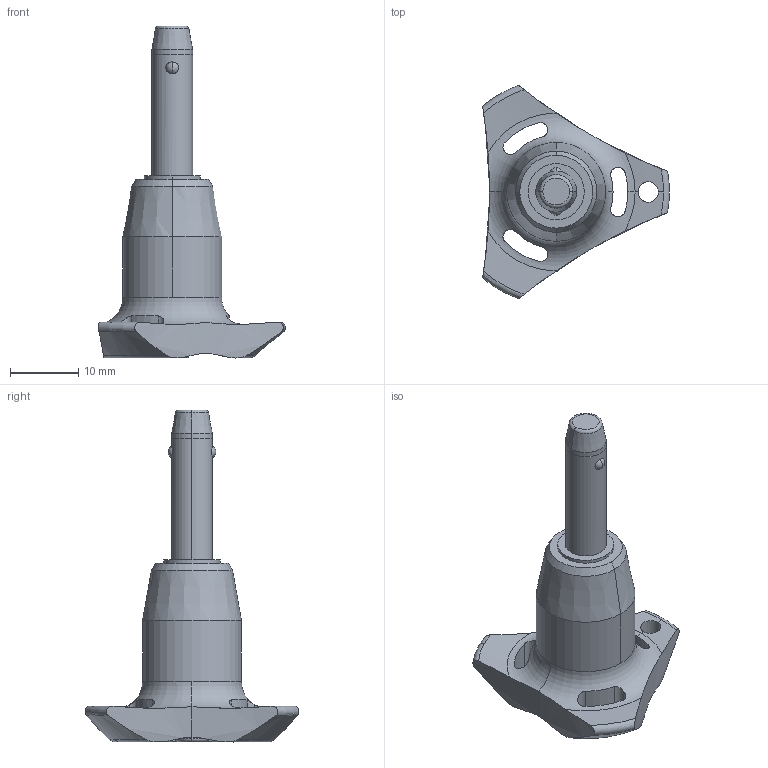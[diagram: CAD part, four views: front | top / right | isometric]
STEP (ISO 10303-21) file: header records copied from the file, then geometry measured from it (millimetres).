
FILE_DESCRIPTION (( 'STEP AP203' ), '1' );
FILE_NAME ('QR1726.M06-015-T.step', '2025-11-13T11:01:58', ( '' ), ( '' ), 'SwSTEP 2.0', 'SolidWorks 2019', '' );
FILE_SCHEMA (( 'CONFIG_CONTROL_DESIGN' ));
Length unit declared in the file: millimetre
Products named in the file (1): QR1726.M06-015-T
Bounding box: 27.4 x 31.31 x 48.7 mm (x, y, z)
Volume: 5390.1 mm3; surface area: 2835.7 mm2
Topology: 1 solids, 1 shells, 69 faces, 189 edges, 121 vertices
Faces by surface type: cylinder 32, cone 14, torus 12, sphere 6, plane 5
Entity records: 2809 total; most frequent: CARTESIAN_POINT 1014, ORIENTED_EDGE 378, DIRECTION 352, EDGE_CURVE 189, AXIS2_PLACEMENT_3D 157, VERTEX_POINT 121, CIRCLE 87, EDGE_LOOP 76
